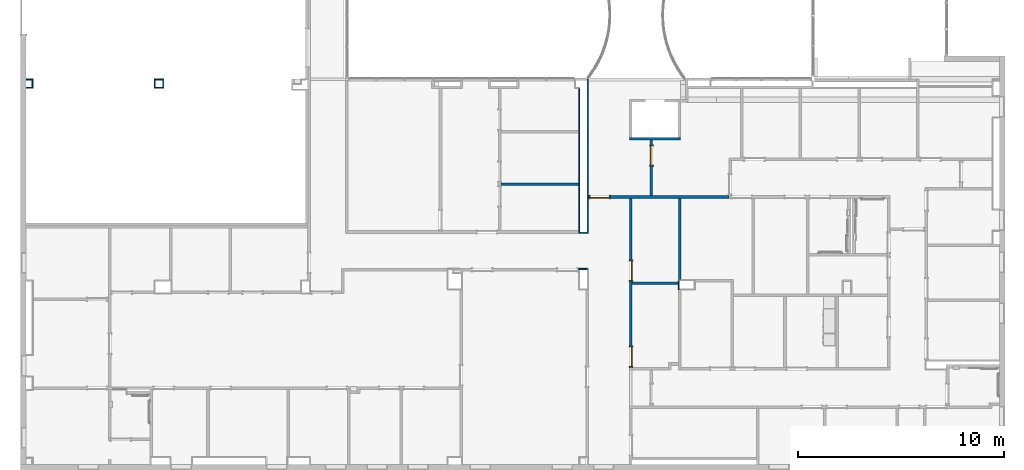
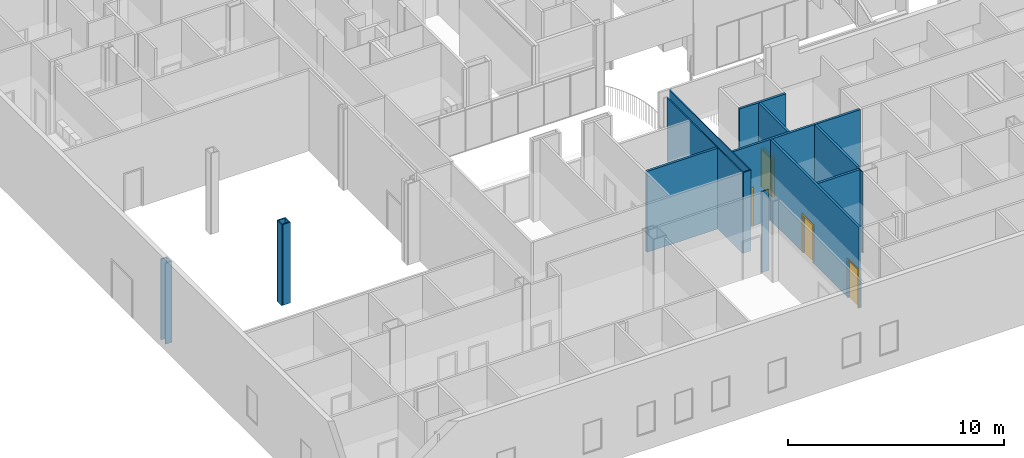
# One storey, part 10 of 45: 19 walls, 4 doors, 4 openings.
"""IFC2X3 building model written with IfcOpenShell, lengths in metres."""

from ifc_helpers import new_model, entity, si_unit, converted_unit, frame, frame_2d, origin, origin_2d_with_axis, place, context, project, spatial, polyline, rectangle, outline, extrude, source, transform, mapped, material, layer, layer_set, layer_usage, type_object, type_shapes, element, fill, save


model = new_model("IFC2X3")

# Units and contexts
model_context = context("Model", 3, precision=1e-09, world=origin())
plan_context = context("Plan", 3, precision=1e-09, world=origin())
ifc_project = project(units=[si_unit("LENGTHUNIT", "METRE"), si_unit("AREAUNIT", "SQUARE_METRE"), si_unit("VOLUMEUNIT", "CUBIC_METRE"), converted_unit("PLANEANGLEUNIT", "DEGREE", entity("IfcRatioMeasure", 0.01745329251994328), si_unit("PLANEANGLEUNIT", "RADIAN"), dimensions=[0, 0, 0, 0, 0, 0, 0]), si_unit("TIMEUNIT", "SECOND")], contexts=[model_context, plan_context])

# Site, building, storey
site_placement = place(None, origin())
site = spatial("IfcSite", under=ifc_project, at=site_placement, Name="Default", CompositionType="ELEMENT")
building_placement = place(site_placement, origin())
building = spatial("IfcBuilding", under=site, at=building_placement, CompositionType="ELEMENT")
storey_placement = place(building_placement, frame((0.0, 0.0, 4.570000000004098)))
storey = spatial("IfcBuildingStorey", under=building, at=storey_placement, Name="Second Floor", CompositionType="ELEMENT", Elevation=4.570000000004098)

# Wall, opening, door
ifc_material_1 = material(Name="Plasterboard")
ifc_layer_1 = layer(ifc_material_1, 0.016)
ifc_material_2 = material(Name="Metal - Stud Layer")
ifc_layer_2 = layer(ifc_material_2, 0.092)
ifc_layer_3 = layer(ifc_material_1, 0.016)
ifc_layer_set_1 = layer_set([ifc_layer_1, ifc_layer_2, ifc_layer_3], Name="Basic Wall:Interior - Partition (92mm Stud)")
ifc_layer_usage_1 = layer_usage(ifc_layer_set_1, "AXIS2", "NEGATIVE", 0.062)
wall_1_placement = place(storey_placement, frame((-13.01000000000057, 22.91243871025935, 0.0), z_axis=(0.0, 0.0, 1.0), x_axis=(-1.0, 0.0, 0.0)))
wall_1 = element("IfcWallStandardCase", 1, at=wall_1_placement, inside=storey, material=ifc_layer_usage_1, Name="Basic Wall:Interior - Partition (92mm Stud)", ObjectType="Basic Wall:Interior - Partition (92mm Stud)", context=model_context, shape_type="SweptSolid", body=[
    extrude(rectangle(XDim=6.819999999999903, YDim=0.1239999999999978, at=frame_2d((3.409999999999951, 0.0), x_axis=(-1.0, 0.0))), origin(), (0.0, 0.0, 1.0), 4.577999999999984),
])
opening_1_placement = place(wall_1_placement, frame((5.805000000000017, -0.06200000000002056, 0.0)))
opening_1 = element("IfcOpeningElement", 2, at=opening_1_placement, cuts=wall_1, Name="M_Single-Flush:0915 x 2134mm:0915 x 2134mm:1", ObjectType="Opening", context=model_context, shape_type="SweptSolid", body=[
    extrude(rectangle(XDim=0.9149999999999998, YDim=2.134, at=frame_2d((1.067, 0.4574999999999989), x_axis=(0.0, 1.0))), frame((0.0, 0.0, 0.0), z_axis=(0.0, 1.0, 0.0), x_axis=(0.0, 0.0, 1.0)), (0.0, 0.0, 1.0), 0.124),
])
door_style = type_object("IfcDoorStyle", Name="0915 x 2134mm", ConstructionType="NOTDEFINED", OperationType="SINGLE_SWING_RIGHT", ParameterTakesPrecedence=False, Sizeable=False)
shared_shape = source(origin(), model_context, "Body", "SweptSolid", [
    extrude(outline(polyline([(-0.5335, -1.123999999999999), (0.5334999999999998, -1.123999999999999), (0.5334999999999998, 1.086), (0.4574999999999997, 1.086), (0.4574999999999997, -1.048000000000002), (-0.4574999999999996, -1.048000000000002), (-0.4574999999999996, 1.086), (-0.5335, 1.086), (-0.5335, -1.123999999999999)])), frame((0.4575000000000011, 0.1239999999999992, 1.086), z_axis=(0.0, 1.0, 0.0), x_axis=(1.0, 0.0, 0.0)), (0.0, 0.0, 1.0), 0.02499999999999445),
    extrude(outline(polyline([(-1.123999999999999, -0.5334999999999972), (1.085999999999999, -0.5334999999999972), (1.085999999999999, -0.4575000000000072), (-1.048, -0.4575000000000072), (-1.048, 0.4575000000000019), (1.085999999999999, 0.4575000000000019), (1.085999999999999, 0.5335000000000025), (-1.123999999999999, 0.5335000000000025), (-1.123999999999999, -0.5334999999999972)])), frame((0.4575000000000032, -0.02500000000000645, 1.085999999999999), z_axis=(0.0, 1.0, 0.0), x_axis=(0.0, 0.0, -1.0)), (0.0, 0.0, 1.0), 0.02500000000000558),
    extrude(rectangle(XDim=0.051, YDim=0.9149999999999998, at=origin_2d_with_axis()), frame((0.4575000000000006, 0.09849999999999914, 0.0), z_axis=(0.0, 0.0, 1.0), x_axis=(0.0, 1.0, 0.0)), (0.0, 0.0, 1.0), 2.133999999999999),
])
type_shapes(door_style, [shared_shape])
door_1_placement = place(opening_1_placement, origin())
door_1 = element("IfcDoor", 3, at=door_1_placement, inside=storey, type_object=door_style, Name="M_Single-Flush:0915 x 2134mm:0915 x 2134mm", ObjectType="0915 x 2134mm", OverallHeight=2.134, OverallWidth=0.9149999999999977, context=model_context, shape_type="MappedRepresentation", body=[
    mapped(shared_shape, transform((0.0, 0.0, 0.0), scale=1.0)),
])
fill(opening_1, door_1)

# Wall, openings, doors
wall_2_placement = place(storey_placement, frame((-17.76800000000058, 14.64843871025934, 0.0), z_axis=(0.0, 0.0, 1.0), x_axis=(0.0, 1.0, 0.0)))
wall_2 = element("IfcWallStandardCase", 4, at=wall_2_placement, inside=storey, material=ifc_layer_usage_1, Name="Basic Wall:Interior - Partition (92mm Stud)", ObjectType="Basic Wall:Interior - Partition (92mm Stud)", context=model_context, shape_type="SweptSolid", body=[
    extrude(rectangle(XDim=8.202000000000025, YDim=0.1240000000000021, at=frame_2d((4.101000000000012, 0.0), x_axis=(-1.0, 0.0))), origin(), (0.0, 0.0, 1.0), 4.577999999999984),
])
opening_2_placement = place(wall_2_placement, frame((0.9750000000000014, 0.06200000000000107, 0.0)))
opening_2 = element("IfcOpeningElement", 5, at=opening_2_placement, cuts=wall_2, Name="M_Single-Flush:0915 x 2134mm:0915 x 2134mm:1", ObjectType="Opening", context=model_context, shape_type="SweptSolid", body=[
    extrude(rectangle(XDim=0.9149999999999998, YDim=2.134, at=frame_2d((1.067, 0.4575), x_axis=(0.0, 1.0))), frame((0.0, 0.0, 0.0), z_axis=(0.0, -1.0, 0.0), x_axis=(0.0, 0.0, 1.0)), (0.0, 0.0, 1.0), 0.124),
])
opening_3_placement = place(wall_2_placement, frame((5.15101534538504, 0.06199999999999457, 0.0)))
opening_3 = element("IfcOpeningElement", 6, at=opening_3_placement, cuts=wall_2, Name="M_Single-Flush:0915 x 2134mm:0915 x 2134mm:1", ObjectType="Opening", context=model_context, shape_type="SweptSolid", body=[
    extrude(rectangle(XDim=0.9149999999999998, YDim=2.134, at=frame_2d((1.067, 0.4575), x_axis=(0.0, 1.0))), frame((0.0, 0.0, 0.0), z_axis=(0.0, -1.0, 0.0), x_axis=(0.0, 0.0, 1.0)), (0.0, 0.0, 1.0), 0.124),
])
door_2_placement = place(opening_3_placement, frame((0.0, 0.0, 0.0), z_axis=(0.0, 0.0, 1.0), x_axis=(-1.0, 0.0, 0.0)))
door_2 = element("IfcDoor", 7, at=door_2_placement, inside=storey, type_object=door_style, Name="M_Single-Flush:0915 x 2134mm:0915 x 2134mm", ObjectType="0915 x 2134mm", OverallHeight=2.134, OverallWidth=0.9149999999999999, context=model_context, shape_type="MappedRepresentation", body=[
    mapped(shared_shape, transform((0.0, 0.0, 0.0), scale=1.0)),
])
fill(opening_3, door_2)
door_3_placement = place(opening_2_placement, frame((0.0, 0.0, 0.0), z_axis=(0.0, 0.0, 1.0), x_axis=(-1.0, 0.0, 0.0)))
door_3 = element("IfcDoor", 8, at=door_3_placement, inside=storey, type_object=door_style, Name="M_Single-Flush:0915 x 2134mm:0915 x 2134mm", ObjectType="0915 x 2134mm", OverallHeight=2.134, OverallWidth=0.9149999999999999, context=model_context, shape_type="MappedRepresentation", body=[
    mapped(shared_shape, transform((0.0, 0.0, 0.0), scale=1.0)),
])
fill(opening_2, door_3)

# Walls
ifc_layer_4 = layer(ifc_material_2, 0.038)
ifc_layer_5 = layer(ifc_material_1, 0.016)
ifc_layer_set_2 = layer_set([ifc_layer_4, ifc_layer_5], Name="Basic Wall:Interior - Furring (38 mm Stud)")
ifc_layer_usage_2 = layer_usage(ifc_layer_set_2, "AXIS2", "NEGATIVE", 0.027)
wall_3_placement = place(storey_placement, frame((-20.26300000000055, 28.18443871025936, 0.0), z_axis=(0.0, 0.0, 1.0), x_axis=(0.0, -1.0, 0.0)))
element("IfcWallStandardCase", 9, at=wall_3_placement, inside=storey, material=ifc_layer_usage_2, Name="Basic Wall:Interior - Furring (38 mm Stud)", ObjectType="Basic Wall:Interior - Furring (38 mm Stud)", context=model_context, shape_type="SweptSolid", body=[
    extrude(rectangle(XDim=7.03000000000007, YDim=0.05399999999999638, at=frame_2d((3.515000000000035, 0.0), x_axis=(-1.0, 0.0))), origin(), (0.0, 0.0, 1.0), 4.577999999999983),
])
ifc_layer_usage_3 = layer_usage(ifc_layer_set_2, "AXIS2", "POSITIVE", -0.027)
wall_4_placement = place(storey_placement, frame((-15.43300000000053, 18.41443871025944, 0.0), z_axis=(0.0, 0.0, 1.0), x_axis=(0.0, 1.0, 0.0)))
element("IfcWallStandardCase", 10, at=wall_4_placement, inside=storey, material=ifc_layer_usage_3, Name="Basic Wall:Interior - Furring (38 mm Stud)", ObjectType="Basic Wall:Interior - Furring (38 mm Stud)", context=model_context, shape_type="SweptSolid", body=[
    extrude(rectangle(XDim=0.4359999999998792, YDim=0.05400000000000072, at=frame_2d((0.2179999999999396, 0.0), x_axis=(-1.0, 0.0))), origin(), (0.0, 0.0, 1.0), 4.577999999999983),
])
wall_5_placement = place(storey_placement, frame((-19.85700000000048, 21.20843871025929, 0.0), z_axis=(0.0, 0.0, 1.0), x_axis=(0.0, 1.0, 0.0)))
element("IfcWallStandardCase", 11, at=wall_5_placement, inside=storey, material=ifc_layer_usage_2, Name="Basic Wall:Interior - Furring (38 mm Stud)", ObjectType="Basic Wall:Interior - Furring (38 mm Stud)", context=model_context, shape_type="SweptSolid", body=[
    extrude(rectangle(XDim=7.481759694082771, YDim=0.05399999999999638, at=frame_2d((3.740879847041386, 0.0), x_axis=(-1.0, 0.0))), origin(), (0.0, 0.0, 1.0), 4.577999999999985),
])

# Wall, opening, door
wall_6_placement = place(storey_placement, frame((-16.76800000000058, 22.97443871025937, 0.0), z_axis=(0.0, 0.0, 1.0), x_axis=(0.0, 1.0, 0.0)))
wall_6 = element("IfcWallStandardCase", 12, at=wall_6_placement, inside=storey, material=ifc_layer_usage_1, Name="Basic Wall:Interior - Partition (92mm Stud)", ObjectType="Basic Wall:Interior - Partition (92mm Stud)", context=model_context, shape_type="SweptSolid", body=[
    extrude(rectangle(XDim=2.708961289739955, YDim=0.1240000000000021, at=frame_2d((1.354480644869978, 0.0), x_axis=(-1.0, 0.0))), origin(), (0.0, 0.0, 1.0), 4.577999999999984),
])
opening_4_placement = place(wall_6_placement, frame((1.495000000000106, -0.06200000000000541, 0.0)))
opening_4 = element("IfcOpeningElement", 13, at=opening_4_placement, cuts=wall_6, Name="M_Single-Flush:0915 x 2134mm:0915 x 2134mm:1", ObjectType="Opening", context=model_context, shape_type="SweptSolid", body=[
    extrude(rectangle(XDim=0.9149999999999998, YDim=2.134, at=frame_2d((1.067, 0.4575), x_axis=(0.0, 1.0))), frame((0.0, 0.0, 0.0), z_axis=(0.0, 1.0, 0.0), x_axis=(0.0, 0.0, 1.0)), (0.0, 0.0, 1.0), 0.124),
])
door_4_placement = place(opening_4_placement, origin())
door_4 = element("IfcDoor", 14, at=door_4_placement, inside=storey, type_object=door_style, Name="M_Single-Flush:0915 x 2134mm:0915 x 2134mm", ObjectType="0915 x 2134mm", OverallHeight=2.134, OverallWidth=0.9149999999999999, context=model_context, shape_type="MappedRepresentation", body=[
    mapped(shared_shape, transform((0.0, 0.0, 0.0), scale=1.0)),
])
fill(opening_4, door_4)

# Walls
ifc_material_3 = material(Name="Type-X Plasterboard")
ifc_layer_6 = layer(ifc_material_3, 0.016)
ifc_layer_7 = layer(ifc_material_2, 0.092)
ifc_layer_8 = layer(ifc_material_3, 0.016)
ifc_layer_set_3 = layer_set([ifc_layer_6, ifc_layer_7, ifc_layer_8], Name="Basic Wall:Interior - Rated 1-HR (92mm Stud)")
ifc_layer_usage_4 = layer_usage(ifc_layer_set_3, "AXIS2", "NEGATIVE", 0.06200000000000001)
wall_7_placement = place(storey_placement, frame((-15.34600000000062, 25.74539999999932, 0.0), z_axis=(0.0, 0.0, 1.0), x_axis=(-1.0, 0.0, 0.0)))
element("IfcWallStandardCase", 15, at=wall_7_placement, inside=storey, material=ifc_layer_usage_4, Name="Basic Wall:Interior - Rated 1-HR (92mm Stud)", ObjectType="Basic Wall:Interior - Rated 1-HR (92mm Stud)", context=model_context, shape_type="SweptSolid", body=[
    extrude(rectangle(XDim=2.483199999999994, YDim=0.1239999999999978, at=frame_2d((1.241599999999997, 0.0), x_axis=(-1.0, 0.0))), origin(), (0.0, 0.0, 1.0), 4.577999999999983),
])
wall_8_placement = place(storey_placement, frame((-15.39800000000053, 18.90443871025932, 0.0), z_axis=(0.0, 0.0, 1.0), x_axis=(0.0, 1.0, 0.0)))
element("IfcWallStandardCase", 16, at=wall_8_placement, inside=storey, material=ifc_layer_usage_1, Name="Basic Wall:Interior - Partition (92mm Stud)", ObjectType="Basic Wall:Interior - Partition (92mm Stud)", context=model_context, shape_type="SweptSolid", body=[
    extrude(rectangle(XDim=3.946000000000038, YDim=0.1240000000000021, at=frame_2d((1.973000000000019, 0.0), x_axis=(-1.0, 0.0))), origin(), (0.0, 0.0, 1.0), 4.577999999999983),
])
wall_9_placement = place(storey_placement, frame((-20.29000000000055, 19.4174387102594, 0.0)))
element("IfcWallStandardCase", 17, at=wall_9_placement, inside=storey, material=ifc_layer_usage_3, Name="Basic Wall:Interior - Furring (38 mm Stud)", ObjectType="Basic Wall:Interior - Furring (38 mm Stud)", context=model_context, shape_type="SweptSolid", body=[
    extrude(rectangle(XDim=0.4059999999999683, YDim=0.05400000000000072, at=frame_2d((0.2029999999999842, 0.0), x_axis=(-1.0, 0.0))), origin(), (0.0, 0.0, 1.0), 4.577999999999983),
])
wall_10_placement = place(storey_placement, frame((-17.70600000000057, 18.72245405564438, 0.0)))
element("IfcWallStandardCase", 18, at=wall_10_placement, inside=storey, material=ifc_layer_usage_1, Name="Basic Wall:Interior - Partition (92mm Stud)", ObjectType="Basic Wall:Interior - Partition (92mm Stud)", context=model_context, shape_type="SweptSolid", body=[
    extrude(rectangle(XDim=2.246000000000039, YDim=0.1240000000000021, at=frame_2d((1.12300000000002, 0.0), x_axis=(-1.0, 0.0))), origin(), (0.0, 0.0, 1.0), 4.577999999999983),
])
wall_11_placement = place(storey_placement, frame((-20.23600000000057, 21.1814387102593, 0.0)))
element("IfcWallStandardCase", 19, at=wall_11_placement, inside=storey, material=ifc_layer_usage_2, Name="Basic Wall:Interior - Furring (38 mm Stud)", ObjectType="Basic Wall:Interior - Furring (38 mm Stud)", context=model_context, shape_type="SweptSolid", body=[
    extrude(rectangle(XDim=0.4060000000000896, YDim=0.05399999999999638, at=frame_2d((0.2030000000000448, 0.0), x_axis=(-1.0, 0.0))), origin(), (0.0, 0.0, 1.0), 4.577999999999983),
])
wall_12_placement = place(storey_placement, frame((-24.0710000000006, 23.5224387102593, 0.0)))
element("IfcWallStandardCase", 20, at=wall_12_placement, inside=storey, material=ifc_layer_usage_1, Name="Basic Wall:Interior - Partition (92mm Stud)", ObjectType="Basic Wall:Interior - Partition (92mm Stud)", context=model_context, shape_type="SweptSolid", body=[
    extrude(rectangle(XDim=3.781000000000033, YDim=0.1239999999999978, at=frame_2d((1.890500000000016, 0.0), x_axis=(-1.0, 0.0))), origin(), (0.0, 0.0, 1.0), 4.577999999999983),
])
wall_13_placement = place(storey_placement, frame((-40.4300000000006, 28.21143871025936, 0.0), z_axis=(0.0, 0.0, 1.0), x_axis=(-1.0, 0.0, 0.0)))
element("IfcWallStandardCase", 21, at=wall_13_placement, inside=storey, material=ifc_layer_usage_3, Name="Basic Wall:Interior - Furring (38 mm Stud)", ObjectType="Basic Wall:Interior - Furring (38 mm Stud)", context=model_context, shape_type="SweptSolid", body=[
    extrude(rectangle(XDim=0.406000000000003, YDim=0.05399999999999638, at=frame_2d((0.2030000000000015, 0.0), x_axis=(-1.0, 0.0))), origin(), (0.0, 0.0, 1.0), 4.577999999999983),
])
wall_14_placement = place(storey_placement, frame((-40.89000000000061, 28.61743871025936, 0.0)))
element("IfcWallStandardCase", 22, at=wall_14_placement, inside=storey, material=ifc_layer_usage_3, Name="Basic Wall:Interior - Furring (38 mm Stud)", ObjectType="Basic Wall:Interior - Furring (38 mm Stud)", context=model_context, shape_type="SweptSolid", body=[
    extrude(rectangle(XDim=0.4060000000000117, YDim=0.05399999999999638, at=frame_2d((0.2030000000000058, 0.0), x_axis=(-1.0, 0.0))), origin(), (0.0, 0.0, 1.0), 4.577999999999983),
])
wall_15_placement = place(storey_placement, frame((-46.82400000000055, 28.61743871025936, 0.0), z_axis=(0.0, 0.0, 1.0), x_axis=(-1.0, 0.0, 0.0)))
element("IfcWallStandardCase", 23, at=wall_15_placement, inside=storey, material=ifc_layer_usage_2, Name="Basic Wall:Interior - Furring (38 mm Stud)", ObjectType="Basic Wall:Interior - Furring (38 mm Stud)", context=model_context, shape_type="SweptSolid", body=[
    extrude(rectangle(XDim=0.2890000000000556, YDim=0.05399999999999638, at=frame_2d((0.1445000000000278, 0.0), x_axis=(-1.0, 0.0))), origin(), (0.0, 0.0, 1.0), 4.577999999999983),
])
wall_16_placement = place(storey_placement, frame((-40.8630000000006, 28.18443871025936, 0.0), z_axis=(0.0, 0.0, 1.0), x_axis=(0.0, 1.0, 0.0)))
element("IfcWallStandardCase", 24, at=wall_16_placement, inside=storey, material=ifc_layer_usage_3, Name="Basic Wall:Interior - Furring (38 mm Stud)", ObjectType="Basic Wall:Interior - Furring (38 mm Stud)", context=model_context, shape_type="SweptSolid", body=[
    extrude(rectangle(XDim=0.4059999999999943, YDim=0.05400000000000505, at=frame_2d((0.2029999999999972, 0.0), x_axis=(-1.0, 0.0))), origin(), (0.0, 0.0, 1.0), 4.577999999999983),
])
wall_17_placement = place(storey_placement, frame((-46.79700000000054, 28.23843871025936, 0.0), z_axis=(0.0, 0.0, 1.0), x_axis=(0.0, 1.0, 0.0)))
element("IfcWallStandardCase", 25, at=wall_17_placement, inside=storey, material=ifc_layer_usage_2, Name="Basic Wall:Interior - Furring (38 mm Stud)", ObjectType="Basic Wall:Interior - Furring (38 mm Stud)", context=model_context, shape_type="SweptSolid", body=[
    extrude(rectangle(XDim=0.4060000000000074, YDim=0.05400000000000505, at=frame_2d((0.2030000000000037, 0.0), x_axis=(-1.0, 0.0))), origin(), (0.0, 0.0, 1.0), 4.577999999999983),
])
wall_18_placement = place(storey_placement, frame((-40.4570000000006, 28.64443871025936, 0.0), z_axis=(0.0, 0.0, 1.0), x_axis=(0.0, -1.0, 0.0)))
element("IfcWallStandardCase", 26, at=wall_18_placement, inside=storey, material=ifc_layer_usage_3, Name="Basic Wall:Interior - Furring (38 mm Stud)", ObjectType="Basic Wall:Interior - Furring (38 mm Stud)", context=model_context, shape_type="SweptSolid", body=[
    extrude(rectangle(XDim=0.4059999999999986, YDim=0.05400000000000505, at=frame_2d((0.2029999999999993, 0.0), x_axis=(-1.0, 0.0))), origin(), (0.0, 0.0, 1.0), 4.577999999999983),
])
wall_19_placement = place(storey_placement, frame((-47.1130000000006, 28.21143871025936, 0.0)))
element("IfcWallStandardCase", 27, at=wall_19_placement, inside=storey, material=ifc_layer_usage_2, Name="Basic Wall:Interior - Furring (38 mm Stud)", ObjectType="Basic Wall:Interior - Furring (38 mm Stud)", context=model_context, shape_type="SweptSolid", body=[
    extrude(rectangle(XDim=0.343000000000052, YDim=0.05399999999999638, at=frame_2d((0.171500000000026, 0.0), x_axis=(-1.0, 0.0))), origin(), (0.0, 0.0, 1.0), 4.577999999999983),
])

save(model, "model.ifc")
